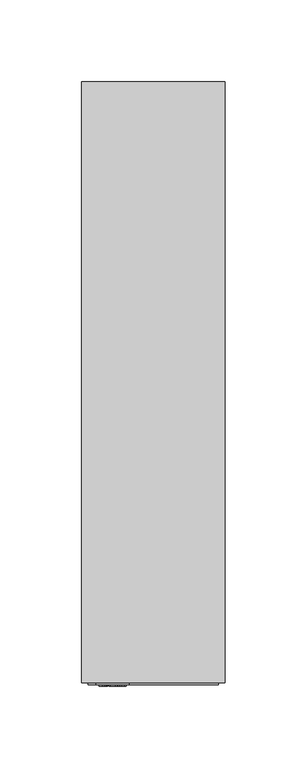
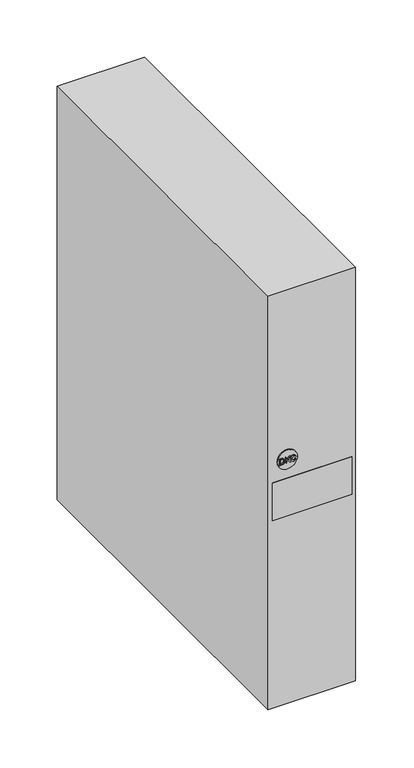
"""IFC4 building model written with IfcOpenShell, lengths in millimetres: proxy geometry, НВО_КНС_ОнлайнИБПSmallRackmount_DKC : 1000 ВА, без АКБ."""

from ifc_helpers import new_model, si_unit, point, frame, frame_2d, origin, origin_with_axes, place, context, project, spatial, polyline, circle_curve, trimmed, segment, composite_curve, outline, extrude, source, transform, mapped, element, save


def electrical_equipment_b92da2d6(model_context):
    return source(origin(), model_context, "Body", "SweptSolid", [
        extrude(outline(polyline([(257.0, -33.1463789), (257.0, -30.967046), (257.103007, -29.9980448), (257.9520786, -28.7273804), (258.829845, -28.3153525), (260.0460629, -28.154956), (261.4793312, -28.391872), (262.5094008, -29.1055631), (262.9405585, -29.9914229), (263.0273786, -31.0671099), (263.0273786, -33.1463789), (257.0, -33.1463789)]), holes=[polyline([(257.7534223, -32.3929566), (262.2739563, -32.3929566), (262.2739563, -31.0803536), (262.153291, -30.0120243), (261.4852173, -29.2299072), (260.0578351, -28.9083783), (258.9181367, -29.0724537), (257.8623154, -30.0900153), (257.7534223, -31.0597522), (257.7534223, -32.3929566)])]), frame((0.0, -2.0, 0.0), z_axis=(0.0, 1.0, 0.0), x_axis=(0.0, 0.0, 1.0)), (0.0, 0.0, 1.0), 6.0),
        extrude(outline(polyline([(257.0, -26.7422891), (259.0719114, -26.365578), (260.0401768, -25.3502237), (257.0, -23.0487539), (257.0, -22.1275774), (260.5493255, -24.816059), (263.0273786, -22.2217552), (263.0273786, -23.2753692), (260.076965, -26.365578), (263.0273786, -27.1190003), (257.0, -26.7422891)])), frame((0.0, -2.0, 0.0), z_axis=(0.0, 1.0, 0.0), x_axis=(0.0, 0.0, 1.0)), (0.0, 0.0, 1.0), 6.0),
        extrude(outline(polyline([(259.1425447, -17.3245101), (258.0330126, -17.963889), (257.6592445, -19.1168311), (257.9336845, -20.1564657), (258.7628905, -20.8642706), (260.0607782, -21.0916217), (261.180611, -20.8995873), (262.0458694, -20.2337209), (262.3681341, -19.055027), (262.0775073, -18.0367296), (261.3307068, -16.6652655), (262.652139, -17.5165445), (263.1215564, -19.0255964), (262.7588248, -20.4735799), (261.6971173, -21.4881985), (260.0593067, -21.845044), (258.4479835, -21.5294013), (257.3016632, -20.6096963), (256.9058222, -19.0417832), (257.4289504, -17.4643052), (259.1425447, -17.3245101)])), frame((0.0, -2.0, 0.0), z_axis=(0.0, 1.0, 0.0), x_axis=(0.0, 0.0, 1.0)), (0.0, 0.0, 1.0), 6.0),
        extrude(outline(composite_curve([segment(trimmed(circle_curve(frame_2d((260.0, -25.0)), 10.0), [point((260.0, -35.0))], [point((260.0, -15.0))], False, "CARTESIAN"), True, "CONTINUOUS"), segment(trimmed(circle_curve(frame_2d((260.0, -25.0)), 10.0), [point((260.0, -15.0))], [point((260.0, -35.0))], False, "CARTESIAN"), True, "CONTINUOUS")], self_intersect=False)), frame((0.0, -1.0, 0.0), z_axis=(0.0, 1.0, 0.0), x_axis=(0.0, 0.0, 1.0)), (0.0, 0.0, 1.0), 10.0),
        extrude(outline(polyline([(44.0, 0.0), (-44.0, 0.0), (-44.0, 368.0), (44.0, 368.0), (44.0, 0.0)])), origin_with_axes(), (0.0, 0.0, 1.0), 440.0),
        extrude(outline(polyline([(40.0, -1.0), (-40.0, -1.0), (-40.0, 0.0), (40.0, 0.0), (40.0, -1.0)])), frame((0.0, 0.0, 200.0), z_axis=(0.0, 0.0, 1.0), x_axis=(1.0, 0.0, 0.0)), (0.0, 0.0, 1.0), 40.0),
    ])


if __name__ == "__main__":
    model = new_model("IFC4")
    model_context = context("Model", 3, world=origin())
    ifc_project = project(units=[si_unit("LENGTHUNIT", "METRE", prefix="MILLI")], contexts=[model_context])
    site = spatial("IfcSite", under=ifc_project)
    building = spatial("IfcBuilding", under=site)
    placement = place(None, origin())
    electrical_equipment_shape = electrical_equipment_b92da2d6(model_context)
    element("IfcBuildingElementProxy", 1, Name="НВО_КНС_ОнлайнИБПSmallRackmount_DKC : 1000 ВА, без АКБ", ObjectType="НВО_КНС_ОнлайнИБПSmallRackmount_DKC : 1000 ВА, без АКБ", at=placement, inside=building, context=model_context, shape_type="MappedRepresentation", body=[
        mapped(electrical_equipment_shape, transform((0.0, 0.0, 0.0), x_axis=(1.0, 0.0, 0.0), y_axis=(0.0, 1.0, 0.0), z_axis=(0.0, 0.0, 1.0))),
    ])
    save(model, "model.ifc")
